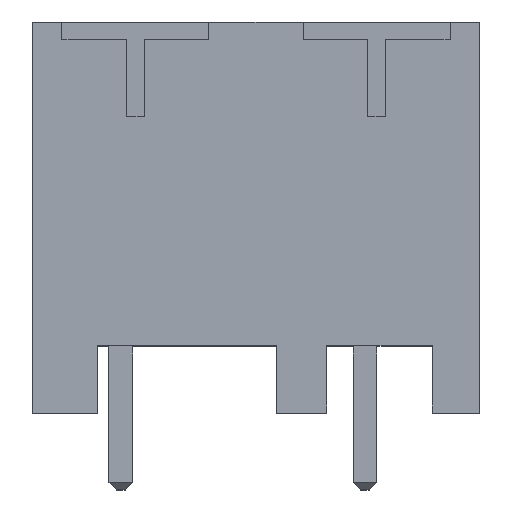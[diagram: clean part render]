
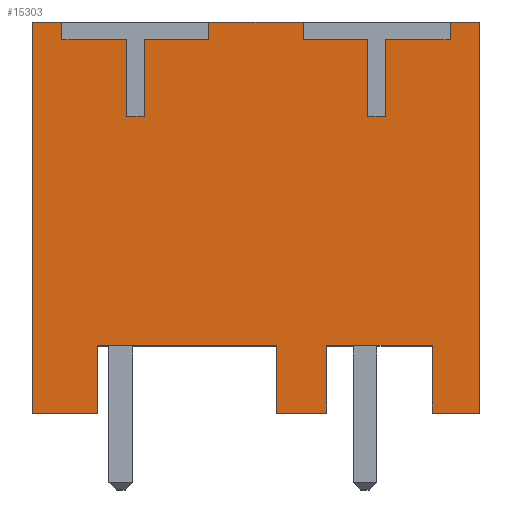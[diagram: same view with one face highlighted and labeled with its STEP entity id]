
A CAD part, top view. The second image highlights one B-rep face of the part: STEP entity #15303.
In plain terms, the highlighted planar face has unit normal (0, 0, 1).
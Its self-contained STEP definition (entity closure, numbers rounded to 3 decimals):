
#4368=DIRECTION('',(0.,1.,0.));
#4369=VECTOR('',#4368,0.6);
#4370=CARTESIAN_POINT('',(14.2,12.7,-0.3));
#4371=LINE('',#4370,#4369);
#4372=DIRECTION('',(1.,0.,0.));
#4373=VECTOR('',#4372,1.);
#4374=CARTESIAN_POINT('',(14.2,13.3,-0.3));
#4375=LINE('',#4374,#4373);
#4376=DIRECTION('',(0.,-1.,0.));
#4377=VECTOR('',#4376,13.3);
#4378=CARTESIAN_POINT('',(15.2,13.3,-0.3));
#4379=LINE('',#4378,#4377);
#4380=DIRECTION('',(-1.,0.,0.));
#4381=VECTOR('',#4380,1.6);
#4382=CARTESIAN_POINT('',(15.2,0.,-0.3));
#4383=LINE('',#4382,#4381);
#4384=DIRECTION('',(0.,1.,0.));
#4385=VECTOR('',#4384,2.3);
#4386=CARTESIAN_POINT('',(13.6,0.,-0.3));
#4387=LINE('',#4386,#4385);
#4388=DIRECTION('',(-1.,0.,0.));
#4389=VECTOR('',#4388,3.6);
#4390=CARTESIAN_POINT('',(13.6,2.3,-0.3));
#4391=LINE('',#4390,#4389);
#4392=DIRECTION('',(0.,-1.,0.));
#4393=VECTOR('',#4392,2.3);
#4394=CARTESIAN_POINT('',(10.,2.3,-0.3));
#4395=LINE('',#4394,#4393);
#4396=DIRECTION('',(-1.,0.,0.));
#4397=VECTOR('',#4396,1.7);
#4398=CARTESIAN_POINT('',(10.,0.,-0.3));
#4399=LINE('',#4398,#4397);
#4400=DIRECTION('',(0.,1.,0.));
#4401=VECTOR('',#4400,2.3);
#4402=CARTESIAN_POINT('',(8.3,0.,-0.3));
#4403=LINE('',#4402,#4401);
#4404=DIRECTION('',(-1.,0.,0.));
#4405=VECTOR('',#4404,6.1);
#4406=CARTESIAN_POINT('',(8.3,2.3,-0.3));
#4407=LINE('',#4406,#4405);
#4408=DIRECTION('',(0.,-1.,0.));
#4409=VECTOR('',#4408,2.3);
#4410=CARTESIAN_POINT('',(2.2,2.3,-0.3));
#4411=LINE('',#4410,#4409);
#4412=DIRECTION('',(-1.,0.,0.));
#4413=VECTOR('',#4412,2.2);
#4414=CARTESIAN_POINT('',(2.2,0.,-0.3));
#4415=LINE('',#4414,#4413);
#4416=DIRECTION('',(0.,1.,0.));
#4417=VECTOR('',#4416,13.3);
#4418=CARTESIAN_POINT('',(0.,0.,-0.3));
#4419=LINE('',#4418,#4417);
#4420=DIRECTION('',(1.,0.,0.));
#4421=VECTOR('',#4420,1.);
#4422=CARTESIAN_POINT('',(0.,13.3,-0.3));
#4423=LINE('',#4422,#4421);
#4424=DIRECTION('',(0.,1.,0.));
#4425=VECTOR('',#4424,0.6);
#4426=CARTESIAN_POINT('',(6.,12.7,-0.3));
#4427=LINE('',#4426,#4425);
#4428=DIRECTION('',(1.,0.,0.));
#4429=VECTOR('',#4428,3.2);
#4430=CARTESIAN_POINT('',(6.,13.3,-0.3));
#4431=LINE('',#4430,#4429);
#4432=DIRECTION('',(0.,1.,0.));
#4433=VECTOR('',#4432,0.6);
#4434=CARTESIAN_POINT('',(9.2,12.7,-0.3));
#4435=LINE('',#4434,#4433);
#4476=DIRECTION('',(-1.,0.,0.));
#4477=VECTOR('',#4476,2.2);
#4478=CARTESIAN_POINT('',(14.2,12.7,-0.3));
#4479=LINE('',#4478,#4477);
#4484=DIRECTION('',(0.,-1.,0.));
#4485=VECTOR('',#4484,2.6);
#4486=CARTESIAN_POINT('',(12.,12.7,-0.3));
#4487=LINE('',#4486,#4485);
#4492=DIRECTION('',(-1.,0.,0.));
#4493=VECTOR('',#4492,0.6);
#4494=CARTESIAN_POINT('',(12.,10.1,-0.3));
#4495=LINE('',#4494,#4493);
#4500=DIRECTION('',(0.,1.,0.));
#4501=VECTOR('',#4500,2.6);
#4502=CARTESIAN_POINT('',(11.4,10.1,-0.3));
#4503=LINE('',#4502,#4501);
#4508=DIRECTION('',(-1.,0.,0.));
#4509=VECTOR('',#4508,2.2);
#4510=CARTESIAN_POINT('',(11.4,12.7,-0.3));
#4511=LINE('',#4510,#4509);
#4686=DIRECTION('',(0.,1.,0.));
#4687=VECTOR('',#4686,0.6);
#4688=CARTESIAN_POINT('',(1.,12.7,-0.3));
#4689=LINE('',#4688,#4687);
#4730=DIRECTION('',(-1.,0.,0.));
#4731=VECTOR('',#4730,2.2);
#4732=CARTESIAN_POINT('',(6.,12.7,-0.3));
#4733=LINE('',#4732,#4731);
#4738=DIRECTION('',(0.,-1.,0.));
#4739=VECTOR('',#4738,2.6);
#4740=CARTESIAN_POINT('',(3.8,12.7,-0.3));
#4741=LINE('',#4740,#4739);
#4746=DIRECTION('',(-1.,0.,0.));
#4747=VECTOR('',#4746,0.6);
#4748=CARTESIAN_POINT('',(3.8,10.1,-0.3));
#4749=LINE('',#4748,#4747);
#4754=DIRECTION('',(0.,1.,0.));
#4755=VECTOR('',#4754,2.6);
#4756=CARTESIAN_POINT('',(3.2,10.1,-0.3));
#4757=LINE('',#4756,#4755);
#4762=DIRECTION('',(-1.,0.,0.));
#4763=VECTOR('',#4762,2.2);
#4764=CARTESIAN_POINT('',(3.2,12.7,-0.3));
#4765=LINE('',#4764,#4763);
#6786=CARTESIAN_POINT('',(15.2,13.3,-0.3));
#6788=VERTEX_POINT('',#6786);
#6824=CARTESIAN_POINT('',(15.2,0.,-0.3));
#6825=VERTEX_POINT('',#6824);
#6852=CARTESIAN_POINT('',(14.2,13.3,-0.3));
#6853=VERTEX_POINT('',#6852);
#6858=CARTESIAN_POINT('',(9.2,13.3,-0.3));
#6859=VERTEX_POINT('',#6858);
#6860=CARTESIAN_POINT('',(6.,13.3,-0.3));
#6861=VERTEX_POINT('',#6860);
#6866=CARTESIAN_POINT('',(1.,13.3,-0.3));
#6867=VERTEX_POINT('',#6866);
#6868=CARTESIAN_POINT('',(0.,13.3,-0.3));
#6869=VERTEX_POINT('',#6868);
#7631=CARTESIAN_POINT('',(0.,0.,-0.3));
#7633=VERTEX_POINT('',#7631);
#7634=CARTESIAN_POINT('',(2.2,0.,-0.3));
#7635=VERTEX_POINT('',#7634);
#7646=CARTESIAN_POINT('',(9.2,12.7,-0.3));
#7647=VERTEX_POINT('',#7646);
#7648=CARTESIAN_POINT('',(11.4,12.7,-0.3));
#7649=VERTEX_POINT('',#7648);
#7650=CARTESIAN_POINT('',(11.4,10.1,-0.3));
#7651=VERTEX_POINT('',#7650);
#7652=CARTESIAN_POINT('',(12.,10.1,-0.3));
#7653=VERTEX_POINT('',#7652);
#7654=CARTESIAN_POINT('',(12.,12.7,-0.3));
#7655=VERTEX_POINT('',#7654);
#7656=CARTESIAN_POINT('',(14.2,12.7,-0.3));
#7657=VERTEX_POINT('',#7656);
#7658=CARTESIAN_POINT('',(13.6,0.,-0.3));
#7659=VERTEX_POINT('',#7658);
#7660=CARTESIAN_POINT('',(13.6,2.3,-0.3));
#7661=VERTEX_POINT('',#7660);
#7662=CARTESIAN_POINT('',(10.,2.3,-0.3));
#7663=VERTEX_POINT('',#7662);
#7664=CARTESIAN_POINT('',(10.,0.,-0.3));
#7665=VERTEX_POINT('',#7664);
#7666=CARTESIAN_POINT('',(8.3,0.,-0.3));
#7667=VERTEX_POINT('',#7666);
#7668=CARTESIAN_POINT('',(8.3,2.3,-0.3));
#7669=VERTEX_POINT('',#7668);
#7670=CARTESIAN_POINT('',(2.2,2.3,-0.3));
#7671=VERTEX_POINT('',#7670);
#7672=CARTESIAN_POINT('',(1.,12.7,-0.3));
#7673=VERTEX_POINT('',#7672);
#7674=CARTESIAN_POINT('',(3.2,12.7,-0.3));
#7675=VERTEX_POINT('',#7674);
#7676=CARTESIAN_POINT('',(3.2,10.1,-0.3));
#7677=VERTEX_POINT('',#7676);
#7678=CARTESIAN_POINT('',(3.8,10.1,-0.3));
#7679=VERTEX_POINT('',#7678);
#7680=CARTESIAN_POINT('',(3.8,12.7,-0.3));
#7681=VERTEX_POINT('',#7680);
#7682=CARTESIAN_POINT('',(6.,12.7,-0.3));
#7683=VERTEX_POINT('',#7682);
#15246=CARTESIAN_POINT('',(0.,0.,-0.3));
#15247=DIRECTION('',(0.,0.,1.));
#15248=DIRECTION('',(0.,-1.,0.));
#15249=AXIS2_PLACEMENT_3D('',#15246,#15247,#15248);
#15250=PLANE('',#15249);
#15252=ORIENTED_EDGE('',*,*,#15251,.F.);
#15254=ORIENTED_EDGE('',*,*,#15253,.F.);
#15256=ORIENTED_EDGE('',*,*,#15255,.F.);
#15258=ORIENTED_EDGE('',*,*,#15257,.F.);
#15260=ORIENTED_EDGE('',*,*,#15259,.F.);
#15262=ORIENTED_EDGE('',*,*,#15261,.F.);
#15264=ORIENTED_EDGE('',*,*,#15263,.T.);
#15265=ORIENTED_EDGE('',*,*,#9344,.T.);
#15266=ORIENTED_EDGE('',*,*,#9307,.T.);
#15268=ORIENTED_EDGE('',*,*,#15267,.T.);
#15270=ORIENTED_EDGE('',*,*,#15269,.T.);
#15272=ORIENTED_EDGE('',*,*,#15271,.T.);
#15274=ORIENTED_EDGE('',*,*,#15273,.T.);
#15276=ORIENTED_EDGE('',*,*,#15275,.T.);
#15277=ORIENTED_EDGE('',*,*,#14770,.T.);
#15279=ORIENTED_EDGE('',*,*,#15278,.T.);
#15281=ORIENTED_EDGE('',*,*,#15280,.T.);
#15283=ORIENTED_EDGE('',*,*,#15282,.T.);
#15284=ORIENTED_EDGE('',*,*,#15235,.T.);
#15285=ORIENTED_EDGE('',*,*,#9360,.T.);
#15287=ORIENTED_EDGE('',*,*,#15286,.F.);
#15289=ORIENTED_EDGE('',*,*,#15288,.F.);
#15291=ORIENTED_EDGE('',*,*,#15290,.F.);
#15293=ORIENTED_EDGE('',*,*,#15292,.F.);
#15295=ORIENTED_EDGE('',*,*,#15294,.F.);
#15297=ORIENTED_EDGE('',*,*,#15296,.F.);
#15299=ORIENTED_EDGE('',*,*,#15298,.T.);
#15300=ORIENTED_EDGE('',*,*,#9352,.T.);
#15301=EDGE_LOOP('',(#15252,#15254,#15256,#15258,#15260,#15262,#15264,#15265,
#15266,#15268,#15270,#15272,#15274,#15276,#15277,#15279,#15281,#15283,#15284,
#15285,#15287,#15289,#15291,#15293,#15295,#15297,#15299,#15300));
#15302=FACE_OUTER_BOUND('',#15301,.F.);
#15303=ADVANCED_FACE('',(#15302),#15250,.T.);
#9307=EDGE_CURVE('',#6788,#6825,#4379,.T.);
#9344=EDGE_CURVE('',#6853,#6788,#4375,.T.);
#9352=EDGE_CURVE('',#6861,#6859,#4431,.T.);
#9360=EDGE_CURVE('',#6869,#6867,#4423,.T.);
#14770=EDGE_CURVE('',#7667,#7669,#4403,.T.);
#15235=EDGE_CURVE('',#7633,#6869,#4419,.T.);
#15251=EDGE_CURVE('',#7647,#6859,#4435,.T.);
#15253=EDGE_CURVE('',#7649,#7647,#4511,.T.);
#15255=EDGE_CURVE('',#7651,#7649,#4503,.T.);
#15257=EDGE_CURVE('',#7653,#7651,#4495,.T.);
#15259=EDGE_CURVE('',#7655,#7653,#4487,.T.);
#15261=EDGE_CURVE('',#7657,#7655,#4479,.T.);
#15263=EDGE_CURVE('',#7657,#6853,#4371,.T.);
#15267=EDGE_CURVE('',#6825,#7659,#4383,.T.);
#15269=EDGE_CURVE('',#7659,#7661,#4387,.T.);
#15271=EDGE_CURVE('',#7661,#7663,#4391,.T.);
#15273=EDGE_CURVE('',#7663,#7665,#4395,.T.);
#15275=EDGE_CURVE('',#7665,#7667,#4399,.T.);
#15278=EDGE_CURVE('',#7669,#7671,#4407,.T.);
#15280=EDGE_CURVE('',#7671,#7635,#4411,.T.);
#15282=EDGE_CURVE('',#7635,#7633,#4415,.T.);
#15286=EDGE_CURVE('',#7673,#6867,#4689,.T.);
#15288=EDGE_CURVE('',#7675,#7673,#4765,.T.);
#15290=EDGE_CURVE('',#7677,#7675,#4757,.T.);
#15292=EDGE_CURVE('',#7679,#7677,#4749,.T.);
#15294=EDGE_CURVE('',#7681,#7679,#4741,.T.);
#15296=EDGE_CURVE('',#7683,#7681,#4733,.T.);
#15298=EDGE_CURVE('',#7683,#6861,#4427,.T.);
